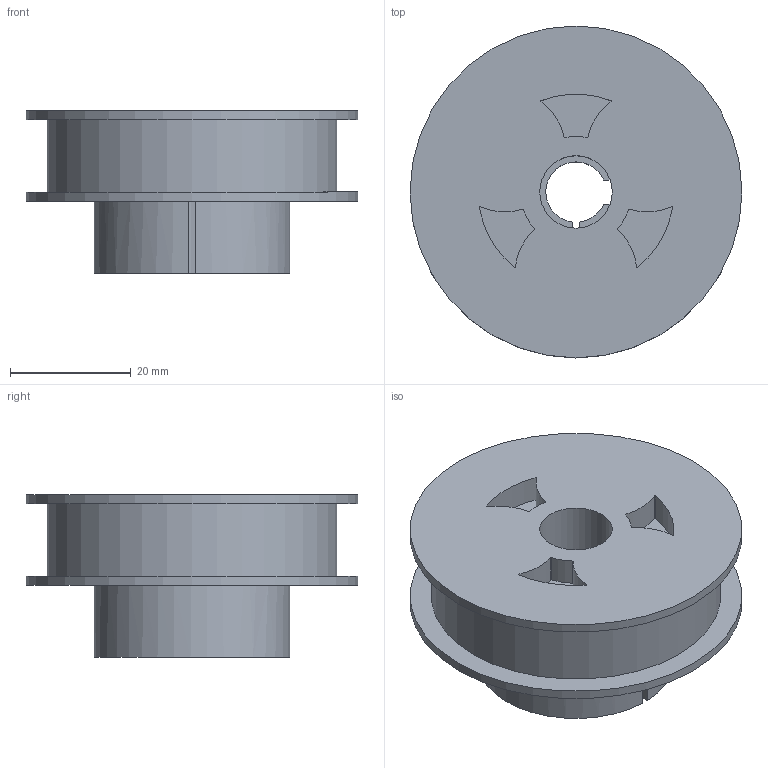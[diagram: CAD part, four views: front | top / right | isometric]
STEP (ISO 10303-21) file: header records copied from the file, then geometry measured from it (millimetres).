
FILE_DESCRIPTION((''),'2;1');
FILE_NAME('I:\Gleitlager\Vertrieb\Labor\robolink\Vertrieb-Tim\Step Daten\RL-ZA001-0250.stp','2011-06-30T11:31:59',('MRaak'),(''),'Autodesk Inventor 2011','Autodesk Inventor 2011','');
FILE_SCHEMA(('AUTOMOTIVE_DESIGN { 1 0 10303 214 1 1 1 1 }'));
Length unit declared in the file: millimetre
Products named in the file (3): Antriebsrad d50 2-teilig; Alu Kupplung; SLS A-Rad
Assembly tree (2 placements, depth 2):
  Antriebsrad d50 2-teilig
    Alu Kupplung
    SLS A-Rad
Bounding box: 55 x 55 x 27 mm (x, y, z)
Volume: 35235.7 mm3; surface area: 13931.4 mm2
Topology: 2 solids, 2 shells, 66 faces, 181 edges, 121 vertices
Faces by surface type: cylinder 52, plane 14
Full cylindrical faces by diameter (mm): 12 x1, 48 x1, 55 x2
Entity records: 2239 total; most frequent: DIRECTION 428, CARTESIAN_POINT 367, ORIENTED_EDGE 352, AXIS2_PLACEMENT_3D 181, EDGE_CURVE 176, VERTEX_POINT 120, CIRCLE 110, EDGE_LOOP 80
